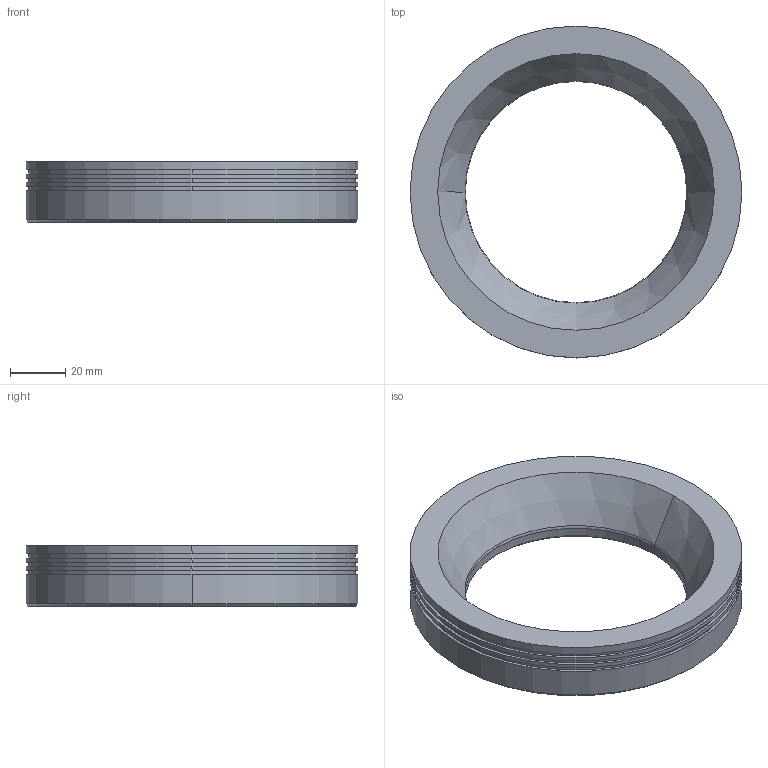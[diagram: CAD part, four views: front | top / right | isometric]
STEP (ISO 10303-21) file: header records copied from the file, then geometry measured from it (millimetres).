
FILE_DESCRIPTION((''),'2;1');
FILE_NAME('DRL7030','2020-03-28T',('ASUS'),(''),'PRO/ENGINEER BY PARAMETRIC TECHNOLOGY CORPORATION, 2008380','PRO/ENGINEER BY PARAMETRIC TECHNOLOGY CORPORATION, 2008380','');
FILE_SCHEMA(('CONFIG_CONTROL_DESIGN'));
Length unit declared in the file: millimetre
Products named in the file (1): DRL7030
Bounding box: 120 x 120 x 22 mm (x, y, z)
Volume: 112485.3 mm3; surface area: 27148.4 mm2
Topology: 1 solids, 5 shells, 68 faces, 152 edges, 92 vertices
Faces by surface type: cylinder 32, cone 22, plane 12, torus 2
Entity records: 1901 total; most frequent: DIRECTION 372, CARTESIAN_POINT 305, ORIENTED_EDGE 272, AXIS2_PLACEMENT_3D 159, EDGE_CURVE 144, VERTEX_POINT 92, CIRCLE 90, EDGE_LOOP 84
